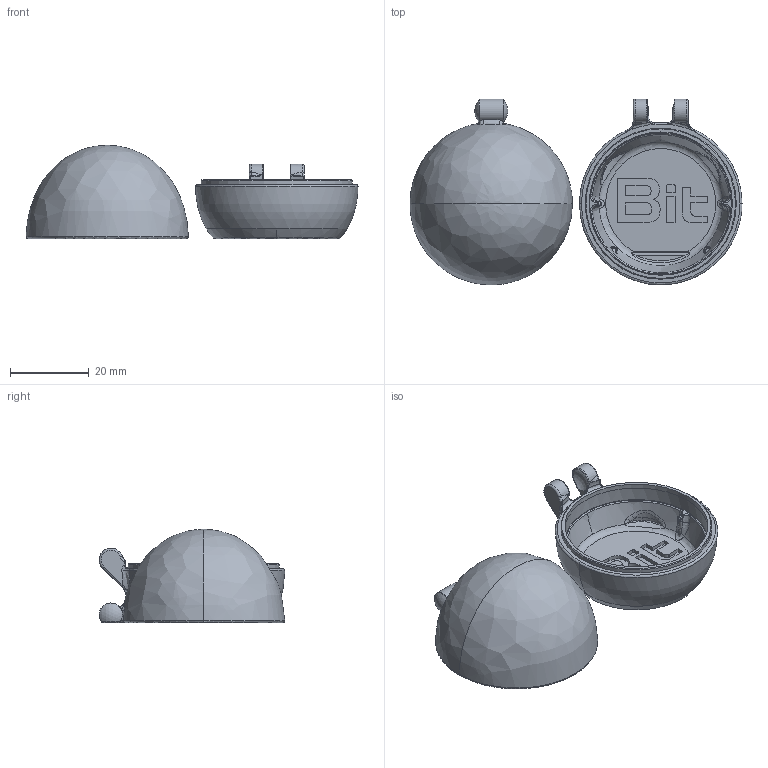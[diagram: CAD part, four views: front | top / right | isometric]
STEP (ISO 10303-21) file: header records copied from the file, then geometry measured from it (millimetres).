
FILE_DESCRIPTION(/* description */ (''),/* implementation_level */ '2;1');
FILE_NAME(/* name */ '/Users/jmac/Desktop/CAD Refresh/Bit Case/Bit Case.step',/* time_stamp */ '2022-09-21T15:43:02-06:00',/* author */ (''),/* organization */ (''),/* preprocessor_version */ 'ST-DEVELOPER v19',/* originating_system */ 'Autodesk Translation Framework v11.7.0.108',/* authorisation */ '');
FILE_SCHEMA (('AUTOMOTIVE_DESIGN { 1 0 10303 214 3 1 1 }'));
Length unit declared in the file: millimetre
Products named in the file (3): Bit Case_CAD Library; Bit Case Top; Bit Case Bottom
Assembly tree (2 placements, depth 2):
  Bit Case_CAD Library
    Bit Case Top
    Bit Case Bottom
Bounding box: 84.19 x 47.1 x 23.66 mm (x, y, z)
Volume: 11138.2 mm3; surface area: 11328 mm2
Topology: 2 solids, 2 shells, 290 faces, 724 edges, 429 vertices
Faces by surface type: bspline 172, plane 58, cylinder 33, torus 14, sphere 10, cone 3
Full cylindrical faces by diameter (mm): 36.33 x1, 38.33 x1, 38.53 x1
Entity records: 22709 total; most frequent: CARTESIAN_POINT 17007, ORIENTED_EDGE 1406, DIRECTION 768, EDGE_CURVE 703, VERTEX_POINT 429, B_SPLINE_CURVE_WITH_KNOTS 360, AXIS2_PLACEMENT_3D 307, EDGE_LOOP 302
